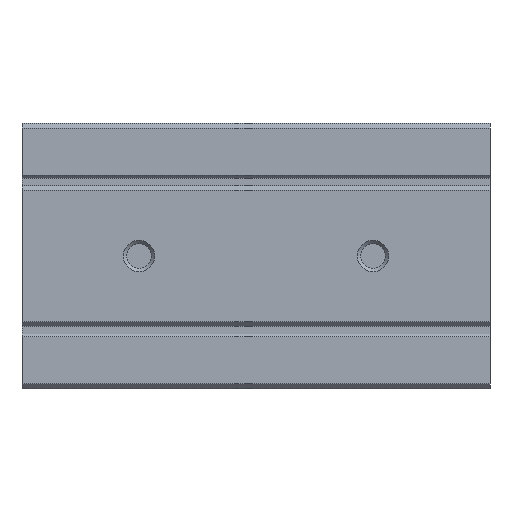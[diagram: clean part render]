
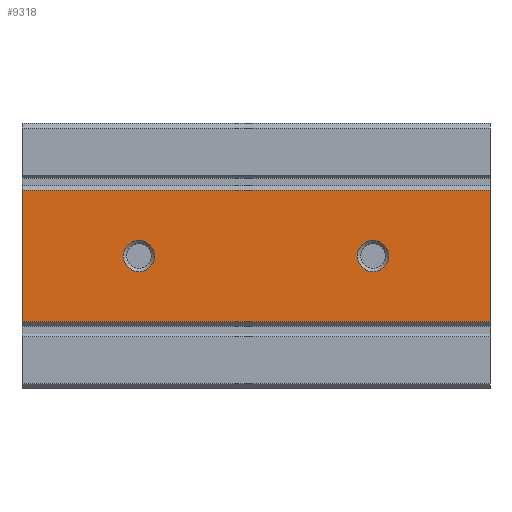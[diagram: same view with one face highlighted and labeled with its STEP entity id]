
A CAD part, front view. The second image highlights one B-rep face of the part: STEP entity #9318.
In plain terms, the highlighted planar face has unit normal (0, -1, 0).
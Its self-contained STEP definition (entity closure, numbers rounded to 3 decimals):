
#44=CIRCLE('',#9870,1.);
#45=CIRCLE('',#9871,1.);
#984=ORIENTED_EDGE('',*,*,#3878,.F.);
#985=ORIENTED_EDGE('',*,*,#3879,.F.);
#986=ORIENTED_EDGE('',*,*,#3880,.T.);
#987=ORIENTED_EDGE('',*,*,#3881,.F.);
#988=ORIENTED_EDGE('',*,*,#3882,.F.);
#989=ORIENTED_EDGE('',*,*,#3876,.T.);
#3876=EDGE_CURVE('',#5321,#5320,#6296,.T.);
#3878=EDGE_CURVE('',#5322,#5322,#44,.T.);
#3879=EDGE_CURVE('',#5323,#5323,#45,.T.);
#3880=EDGE_CURVE('',#5320,#5324,#6298,.T.);
#3881=EDGE_CURVE('',#5325,#5324,#6299,.T.);
#3882=EDGE_CURVE('',#5321,#5325,#6300,.T.);
#5320=VERTEX_POINT('',#14161);
#5321=VERTEX_POINT('',#14163);
#5322=VERTEX_POINT('',#14167);
#5323=VERTEX_POINT('',#14169);
#5324=VERTEX_POINT('',#14171);
#5325=VERTEX_POINT('',#14173);
#6296=LINE('',#14162,#7130);
#6298=LINE('',#14170,#7132);
#6299=LINE('',#14172,#7133);
#6300=LINE('',#14174,#7134);
#7130=VECTOR('',#11039,1000.);
#7132=VECTOR('',#11047,1000.);
#7133=VECTOR('',#11048,1000.);
#7134=VECTOR('',#11049,1000.);
#7953=EDGE_LOOP('',(#984));
#7954=EDGE_LOOP('',(#985));
#7955=EDGE_LOOP('',(#986,#987,#988,#989));
#8529=FACE_BOUND('',#7953,.T.);
#8530=FACE_BOUND('',#7954,.T.);
#8531=FACE_BOUND('',#7955,.T.);
#9104=PLANE('',#9869);
#9318=ADVANCED_FACE('',(#8529,#8530,#8531),#9104,.F.);
#9869=AXIS2_PLACEMENT_3D('',#14165,#11041,#11042);
#9870=AXIS2_PLACEMENT_3D('',#14166,#11043,#11044);
#9871=AXIS2_PLACEMENT_3D('',#14168,#11045,#11046);
#11039=DIRECTION('',(-1.,0.,0.));
#11041=DIRECTION('',(0.,1.,0.));
#11042=DIRECTION('',(0.,0.,1.));
#11043=DIRECTION('',(0.,-1.,0.));
#11044=DIRECTION('',(0.,0.,-1.));
#11045=DIRECTION('',(0.,-1.,0.));
#11046=DIRECTION('',(0.,0.,-1.));
#11047=DIRECTION('',(0.,0.,-1.));
#11048=DIRECTION('',(-1.,0.,0.));
#11049=DIRECTION('',(0.,0.,-1.));
#14161=CARTESIAN_POINT('',(-15.,0.,4.2));
#14162=CARTESIAN_POINT('',(15.,0.,4.2));
#14163=CARTESIAN_POINT('',(15.,0.,4.2));
#14165=CARTESIAN_POINT('',(15.,0.,4.2));
#14166=CARTESIAN_POINT('',(7.5,0.,0.));
#14167=CARTESIAN_POINT('',(7.5,0.,-1.));
#14168=CARTESIAN_POINT('',(-7.5,0.,0.));
#14169=CARTESIAN_POINT('',(-7.5,0.,-1.));
#14170=CARTESIAN_POINT('',(-15.,0.,4.2));
#14171=CARTESIAN_POINT('',(-15.,0.,-4.2));
#14172=CARTESIAN_POINT('',(15.,0.,-4.2));
#14173=CARTESIAN_POINT('',(15.,0.,-4.2));
#14174=CARTESIAN_POINT('',(15.,0.,4.2));
